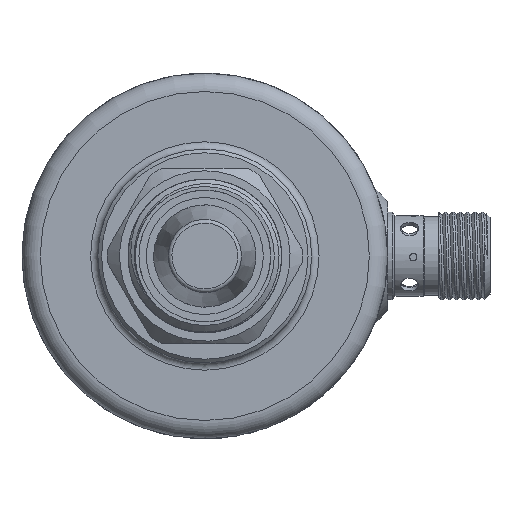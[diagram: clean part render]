
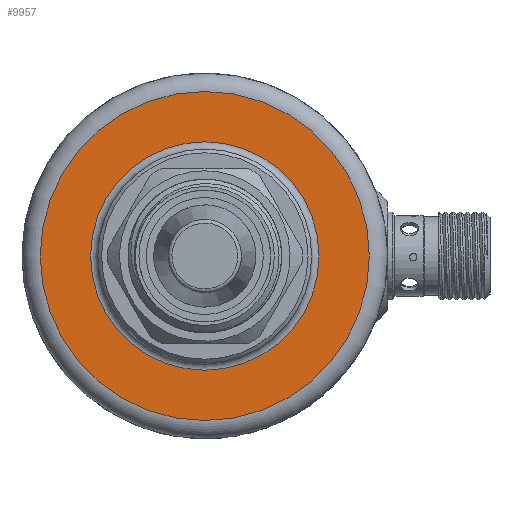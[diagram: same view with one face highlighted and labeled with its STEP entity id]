
A CAD part, front view. The second image highlights one B-rep face of the part: STEP entity #9957.
In plain terms, the highlighted planar face has unit normal (0, -1, 0) as drawn and (-1, 0, 0) by its records, which use the part's own axes.
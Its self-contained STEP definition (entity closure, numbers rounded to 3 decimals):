
#73 = ORIENTED_EDGE ( 'NONE', *, *, #11027, .T. ) ;
#285 = AXIS2_PLACEMENT_3D ( 'NONE', #5408, #11760, #7462 ) ;
#1674 = FACE_BOUND ( 'NONE', #3082, .T. ) ;
#1877 = DIRECTION ( 'NONE',  ( -1., 0., 0. ) ) ;
#2064 = VERTEX_POINT ( 'NONE', #13819 ) ;
#2086 = DIRECTION ( 'NONE',  ( 0., 0., -1. ) ) ;
#2964 = AXIS2_PLACEMENT_3D ( 'NONE', #7223, #1877, #2086 ) ;
#3082 = EDGE_LOOP ( 'NONE', ( #8897 ) ) ;
#4043 = FACE_OUTER_BOUND ( 'NONE', #10038, .T. ) ;
#4638 = VERTEX_POINT ( 'NONE', #12193 ) ;
#4747 = AXIS2_PLACEMENT_3D ( 'NONE', #11327, #10400, #6025 ) ;
#5207 = CIRCLE ( 'NONE', #285, 15.62 ) ;
#5408 = CARTESIAN_POINT ( 'NONE',  ( 41., 0., -0.275 ) ) ;
#6025 = DIRECTION ( 'NONE',  ( 0., 0., -1. ) ) ;
#6360 = EDGE_CURVE ( 'NONE', #2064, #2064, #5207, .T. ) ;
#7223 = CARTESIAN_POINT ( 'NONE',  ( 41., 0., -0.275 ) ) ;
#7462 = DIRECTION ( 'NONE',  ( 0., 0., -1. ) ) ;
#8537 = PLANE ( 'NONE',  #4747 ) ;
#8897 = ORIENTED_EDGE ( 'NONE', *, *, #6360, .T. ) ;
#9046 = CIRCLE ( 'NONE', #2964, 22.5 ) ;
#9957 = ADVANCED_FACE ( 'NONE', ( #1674, #4043 ), #8537, .F. ) ;
#10038 = EDGE_LOOP ( 'NONE', ( #73 ) ) ;
#10400 = DIRECTION ( 'NONE',  ( 1., 0., 0. ) ) ;
#11027 = EDGE_CURVE ( 'NONE', #4638, #4638, #9046, .T. ) ;
#11327 = CARTESIAN_POINT ( 'NONE',  ( 41., 0., -0.275 ) ) ;
#11760 = DIRECTION ( 'NONE',  ( 1., 0., 0. ) ) ;
#12193 = CARTESIAN_POINT ( 'NONE',  ( 41., 0., -22.775 ) ) ;
#13819 = CARTESIAN_POINT ( 'NONE',  ( 41., 0., -15.895 ) ) ;
